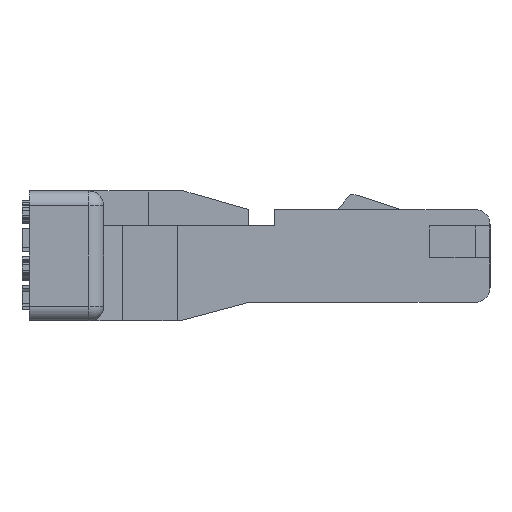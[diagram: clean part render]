
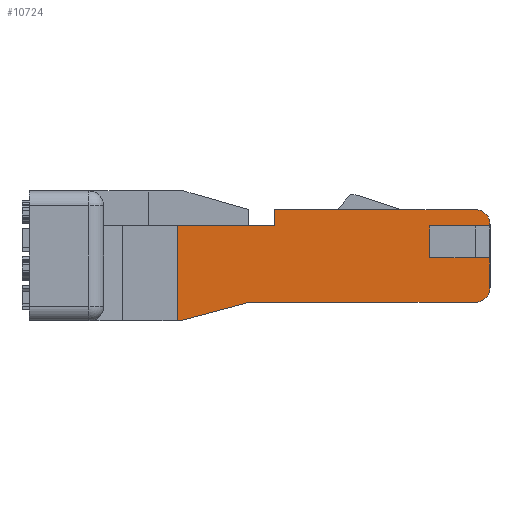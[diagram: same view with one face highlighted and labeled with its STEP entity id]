
A CAD part, left-side view. The second image highlights one B-rep face of the part: STEP entity #10724.
In plain terms, the highlighted planar face has unit normal (-1, 0, 0).
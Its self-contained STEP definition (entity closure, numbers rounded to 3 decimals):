
#589=DIRECTION('',(0.,-1.,0.));
#590=VECTOR('',#589,0.027);
#591=CARTESIAN_POINT('',(1.5,-1.99,0.));
#592=LINE('',#591,#590);
#1052=CARTESIAN_POINT('',(1.5,-6.,1.301));
#1053=DIRECTION('',(1.,0.,0.));
#1054=DIRECTION('',(0.,0.,1.));
#1055=AXIS2_PLACEMENT_3D('',#1052,#1053,#1054);
#1057=CARTESIAN_POINT('',(1.5,-6.,0.45));
#1058=DIRECTION('',(1.,0.,0.));
#1059=DIRECTION('',(0.,-1.,0.));
#1060=AXIS2_PLACEMENT_3D('',#1057,#1058,#1059);
#1062=DIRECTION('',(0.,0.966,-0.259));
#1063=VECTOR('',#1062,0.966);
#1064=CARTESIAN_POINT('',(1.5,-2.95,0.25));
#1065=LINE('',#1064,#1063);
#1066=DIRECTION('',(0.,0.,1.));
#1067=VECTOR('',#1066,1.28);
#1068=CARTESIAN_POINT('',(1.5,-1.99,0.));
#1069=LINE('',#1068,#1067);
#1070=DIRECTION('',(0.,0.,1.));
#1071=VECTOR('',#1070,0.221);
#1072=CARTESIAN_POINT('',(1.5,-3.3,1.28));
#1073=LINE('',#1072,#1071);
#1074=DIRECTION('',(0.,-1.,0.));
#1075=VECTOR('',#1074,2.7);
#1076=CARTESIAN_POINT('',(1.5,-3.3,1.501));
#1077=LINE('',#1076,#1075);
#1082=DIRECTION('',(0.,0.,1.));
#1083=VECTOR('',#1082,0.4);
#1084=CARTESIAN_POINT('',(1.5,-6.2,0.45));
#1085=LINE('',#1084,#1083);
#1094=DIRECTION('',(0.,0.,1.));
#1095=VECTOR('',#1094,0.021);
#1096=CARTESIAN_POINT('',(1.5,-6.2,1.28));
#1097=LINE('',#1096,#1095);
#1330=DIRECTION('',(0.,-1.,0.));
#1331=VECTOR('',#1330,3.05);
#1332=CARTESIAN_POINT('',(1.5,-2.95,0.25));
#1333=LINE('',#1332,#1331);
#1334=DIRECTION('',(0.,1.,0.));
#1335=VECTOR('',#1334,0.81);
#1336=CARTESIAN_POINT('',(1.5,-6.2,0.85));
#1337=LINE('',#1336,#1335);
#1350=DIRECTION('',(0.,0.,1.));
#1351=VECTOR('',#1350,0.43);
#1352=CARTESIAN_POINT('',(1.5,-5.39,0.85));
#1353=LINE('',#1352,#1351);
#1366=DIRECTION('',(0.,-1.,0.));
#1367=VECTOR('',#1366,0.81);
#1368=CARTESIAN_POINT('',(1.5,-5.39,1.28));
#1369=LINE('',#1368,#1367);
#1454=DIRECTION('',(0.,1.,0.));
#1455=VECTOR('',#1454,1.31);
#1456=CARTESIAN_POINT('',(1.5,-3.3,1.28));
#1457=LINE('',#1456,#1455);
#7664=CARTESIAN_POINT('',(1.5,-3.3,1.28));
#7666=VERTEX_POINT('',#7664);
#7667=CARTESIAN_POINT('',(1.5,-1.99,1.28));
#7668=VERTEX_POINT('',#7667);
#7826=CARTESIAN_POINT('',(1.5,-1.99,0.));
#7827=VERTEX_POINT('',#7826);
#7828=CARTESIAN_POINT('',(1.5,-2.017,0.));
#7829=VERTEX_POINT('',#7828);
#7921=CARTESIAN_POINT('',(1.5,-6.2,1.301));
#7923=VERTEX_POINT('',#7921);
#7934=CARTESIAN_POINT('',(1.5,-6.2,0.45));
#7935=VERTEX_POINT('',#7934);
#7936=CARTESIAN_POINT('',(1.5,-6.2,0.85));
#7937=VERTEX_POINT('',#7936);
#7942=CARTESIAN_POINT('',(1.5,-6.2,1.28));
#7943=VERTEX_POINT('',#7942);
#8290=CARTESIAN_POINT('',(1.5,-6.,1.501));
#8292=VERTEX_POINT('',#8290);
#8294=CARTESIAN_POINT('',(1.5,-3.3,1.501));
#8295=VERTEX_POINT('',#8294);
#8470=CARTESIAN_POINT('',(1.5,-2.95,0.25));
#8471=VERTEX_POINT('',#8470);
#8472=CARTESIAN_POINT('',(1.5,-5.39,1.28));
#8473=VERTEX_POINT('',#8472);
#8474=CARTESIAN_POINT('',(1.5,-5.39,0.85));
#8475=VERTEX_POINT('',#8474);
#8476=CARTESIAN_POINT('',(1.5,-6.,0.25));
#8477=VERTEX_POINT('',#8476);
#10693=CARTESIAN_POINT('',(1.5,-5.39,1.75));
#10694=DIRECTION('',(1.,0.,0.));
#10695=DIRECTION('',(0.,1.,0.));
#10696=AXIS2_PLACEMENT_3D('',#10693,#10694,#10695);
#10697=PLANE('',#10696);
#10698=ORIENTED_EDGE('',*,*,#10618,.T.);
#10700=ORIENTED_EDGE('',*,*,#10699,.F.);
#10702=ORIENTED_EDGE('',*,*,#10701,.F.);
#10704=ORIENTED_EDGE('',*,*,#10703,.F.);
#10706=ORIENTED_EDGE('',*,*,#10705,.F.);
#10708=ORIENTED_EDGE('',*,*,#10707,.F.);
#10710=ORIENTED_EDGE('',*,*,#10709,.T.);
#10712=ORIENTED_EDGE('',*,*,#10711,.F.);
#10713=ORIENTED_EDGE('',*,*,#10686,.T.);
#10714=ORIENTED_EDGE('',*,*,#10011,.F.);
#10716=ORIENTED_EDGE('',*,*,#10715,.T.);
#10718=ORIENTED_EDGE('',*,*,#10717,.F.);
#10720=ORIENTED_EDGE('',*,*,#10719,.T.);
#10721=ORIENTED_EDGE('',*,*,#10448,.T.);
#10722=EDGE_LOOP('',(#10698,#10700,#10702,#10704,#10706,#10708,#10710,#10712,
#10713,#10714,#10716,#10718,#10720,#10721));
#10723=FACE_OUTER_BOUND('',#10722,.F.);
#1056=CIRCLE('',#1055,0.2);
#1061=CIRCLE('',#1060,0.2);
#10011=EDGE_CURVE('',#7827,#7829,#592,.T.);
#10448=EDGE_CURVE('',#8295,#8292,#1077,.T.);
#10618=EDGE_CURVE('',#8292,#7923,#1056,.T.);
#10686=EDGE_CURVE('',#8471,#7829,#1065,.T.);
#10699=EDGE_CURVE('',#7943,#7923,#1097,.T.);
#10701=EDGE_CURVE('',#8473,#7943,#1369,.T.);
#10703=EDGE_CURVE('',#8475,#8473,#1353,.T.);
#10705=EDGE_CURVE('',#7937,#8475,#1337,.T.);
#10707=EDGE_CURVE('',#7935,#7937,#1085,.T.);
#10709=EDGE_CURVE('',#7935,#8477,#1061,.T.);
#10711=EDGE_CURVE('',#8471,#8477,#1333,.T.);
#10715=EDGE_CURVE('',#7827,#7668,#1069,.T.);
#10717=EDGE_CURVE('',#7666,#7668,#1457,.T.);
#10719=EDGE_CURVE('',#7666,#8295,#1073,.T.);
#10724=ADVANCED_FACE('',(#10723),#10697,.F.);
